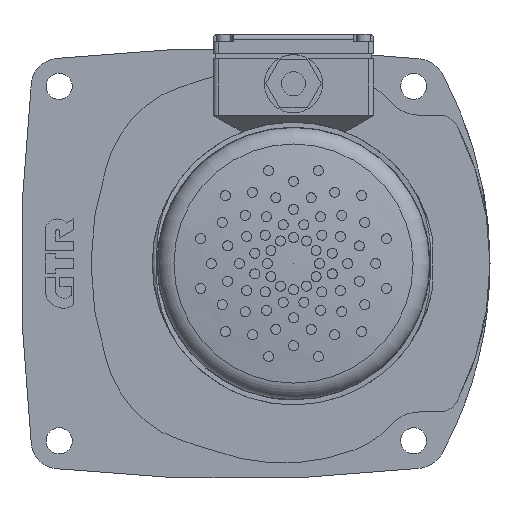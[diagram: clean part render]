
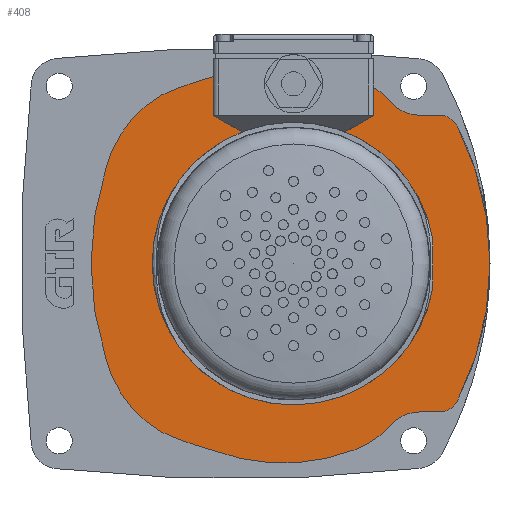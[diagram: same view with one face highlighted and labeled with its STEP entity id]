
A CAD part, left-side view. The second image highlights one B-rep face of the part: STEP entity #408.
In plain terms, the highlighted planar face has unit normal (-1, 0, 0).
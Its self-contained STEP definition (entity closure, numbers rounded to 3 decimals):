
#408 = ADVANCED_FACE( '', ( #1184 ), #1185, .F. );
#1184 = FACE_OUTER_BOUND( '', #2733, .T. );
#1185 = PLANE( '', #2734 );
#2733 = EDGE_LOOP( '', ( #4829, #4830, #4831, #4832, #4833, #4834, #4835, #4836, #4837, #4838, #4839, #4840, #4841, #4842, #4843, #4844 ) );
#2734 = AXIS2_PLACEMENT_3D( '', #4845, #4846, #4847 );
#4829 = ORIENTED_EDGE( '', *, *, #9308, .F. );
#4830 = ORIENTED_EDGE( '', *, *, #9309, .F. );
#4831 = ORIENTED_EDGE( '', *, *, #9310, .F. );
#4832 = ORIENTED_EDGE( '', *, *, #9311, .F. );
#4833 = ORIENTED_EDGE( '', *, *, #9312, .F. );
#4834 = ORIENTED_EDGE( '', *, *, #9313, .F. );
#4835 = ORIENTED_EDGE( '', *, *, #9314, .F. );
#4836 = ORIENTED_EDGE( '', *, *, #9315, .T. );
#4837 = ORIENTED_EDGE( '', *, *, #9316, .F. );
#4838 = ORIENTED_EDGE( '', *, *, #9317, .F. );
#4839 = ORIENTED_EDGE( '', *, *, #9318, .F. );
#4840 = ORIENTED_EDGE( '', *, *, #9319, .F. );
#4841 = ORIENTED_EDGE( '', *, *, #9320, .F. );
#4842 = ORIENTED_EDGE( '', *, *, #9321, .T. );
#4843 = ORIENTED_EDGE( '', *, *, #9322, .F. );
#4844 = ORIENTED_EDGE( '', *, *, #9323, .F. );
#4845 = CARTESIAN_POINT( '', ( -110., -35.5, -80. ) );
#4846 = DIRECTION( '', ( 1., 0., 0. ) );
#4847 = DIRECTION( '', ( 0., 0., -1. ) );
#9308 = EDGE_CURVE( '', #10982, #10983, #10984, .T. );
#9309 = EDGE_CURVE( '', #10985, #10982, #10986, .T. );
#9310 = EDGE_CURVE( '', #10987, #10985, #10988, .T. );
#9311 = EDGE_CURVE( '', #10989, #10987, #10990, .T. );
#9312 = EDGE_CURVE( '', #10991, #10989, #10992, .T. );
#9313 = EDGE_CURVE( '', #10993, #10991, #10994, .T. );
#9314 = EDGE_CURVE( '', #10995, #10993, #10996, .T. );
#9315 = EDGE_CURVE( '', #10995, #10997, #10998, .T. );
#9316 = EDGE_CURVE( '', #10999, #10997, #11000, .T. );
#9317 = EDGE_CURVE( '', #11001, #10999, #11002, .T. );
#9318 = EDGE_CURVE( '', #11003, #11001, #11004, .T. );
#9319 = EDGE_CURVE( '', #11005, #11003, #11006, .T. );
#9320 = EDGE_CURVE( '', #11007, #11005, #11008, .T. );
#9321 = EDGE_CURVE( '', #11007, #11009, #11010, .T. );
#9322 = EDGE_CURVE( '', #11011, #11009, #11012, .T. );
#9323 = EDGE_CURVE( '', #10983, #11011, #11013, .T. );
#10982 = VERTEX_POINT( '', #13687 );
#10983 = VERTEX_POINT( '', #13688 );
#10984 = CIRCLE( '', #13689, 179.5 );
#10985 = VERTEX_POINT( '', #13690 );
#10986 = CIRCLE( '', #13691, 59.5 );
#10987 = VERTEX_POINT( '', #13692 );
#10988 = CIRCLE( '', #13693, 154.5 );
#10989 = VERTEX_POINT( '', #13694 );
#10990 = CIRCLE( '', #13695, 59.5 );
#10991 = VERTEX_POINT( '', #13696 );
#10992 = CIRCLE( '', #13697, 179.5 );
#10993 = VERTEX_POINT( '', #13698 );
#10994 = CIRCLE( '', #13699, 99.5 );
#10995 = VERTEX_POINT( '', #13700 );
#10996 = CIRCLE( '', #13701, 50. );
#10997 = VERTEX_POINT( '', #13702 );
#10998 = CIRCLE( '', #13703, 18. );
#10999 = VERTEX_POINT( '', #13704 );
#11000 = LINE( '', #13705, #13706 );
#11001 = VERTEX_POINT( '', #13707 );
#11002 = CIRCLE( '', #13708, 10. );
#11003 = VERTEX_POINT( '', #13709 );
#11004 = CIRCLE( '', #13710, 152.5 );
#11005 = VERTEX_POINT( '', #13711 );
#11006 = CIRCLE( '', #13712, 10. );
#11007 = VERTEX_POINT( '', #13713 );
#11008 = LINE( '', #13714, #13715 );
#11009 = VERTEX_POINT( '', #13716 );
#11010 = CIRCLE( '', #13717, 18. );
#11011 = VERTEX_POINT( '', #13718 );
#11012 = CIRCLE( '', #13719, 50. );
#11013 = CIRCLE( '', #13720, 99.5 );
#13687 = CARTESIAN_POINT( '', ( -110., 37.187, 84.125 ) );
#13688 = CARTESIAN_POINT( '', ( -110., 11.287, 93.295 ) );
#13689 = AXIS2_PLACEMENT_3D( '', #21548, #21549, #21550 );
#13690 = CARTESIAN_POINT( '', ( -110., 65.101, 47.239 ) );
#13691 = AXIS2_PLACEMENT_3D( '', #21551, #21552, #21553 );
#13692 = CARTESIAN_POINT( '', ( -110., 65.101, -47.239 ) );
#13693 = AXIS2_PLACEMENT_3D( '', #21554, #21555, #21556 );
#13694 = CARTESIAN_POINT( '', ( -110., 37.187, -84.125 ) );
#13695 = AXIS2_PLACEMENT_3D( '', #21557, #21558, #21559 );
#13696 = CARTESIAN_POINT( '', ( -110., 11.287, -93.295 ) );
#13697 = AXIS2_PLACEMENT_3D( '', #21560, #21561, #21562 );
#13698 = CARTESIAN_POINT( '', ( -110., -58.663, -93.004 ) );
#13699 = AXIS2_PLACEMENT_3D( '', #21563, #21564, #21565 );
#13700 = CARTESIAN_POINT( '', ( -110., -77.891, -79.992 ) );
#13701 = AXIS2_PLACEMENT_3D( '', #21566, #21567, #21568 );
#13702 = CARTESIAN_POINT( '', ( -110., -91.3, -74. ) );
#13703 = AXIS2_PLACEMENT_3D( '', #21569, #21570, #21571 );
#13704 = CARTESIAN_POINT( '', ( -110., -101.32, -74. ) );
#13705 = CARTESIAN_POINT( '', ( -110., -101.32, -74. ) );
#13706 = VECTOR( '', #21572, 1000. );
#13707 = CARTESIAN_POINT( '', ( -110., -110.209, -68.58 ) );
#13708 = AXIS2_PLACEMENT_3D( '', #21573, #21574, #21575 );
#13709 = CARTESIAN_POINT( '', ( -110., -110.209, 68.58 ) );
#13710 = AXIS2_PLACEMENT_3D( '', #21576, #21577, #21578 );
#13711 = CARTESIAN_POINT( '', ( -110., -101.32, 74. ) );
#13712 = AXIS2_PLACEMENT_3D( '', #21579, #21580, #21581 );
#13713 = CARTESIAN_POINT( '', ( -110., -91.3, 74. ) );
#13714 = CARTESIAN_POINT( '', ( -110., -91.3, 74. ) );
#13715 = VECTOR( '', #21582, 1000. );
#13716 = CARTESIAN_POINT( '', ( -110., -77.891, 79.992 ) );
#13717 = AXIS2_PLACEMENT_3D( '', #21583, #21584, #21585 );
#13718 = CARTESIAN_POINT( '', ( -110., -58.663, 93.004 ) );
#13719 = AXIS2_PLACEMENT_3D( '', #21586, #21587, #21588 );
#13720 = AXIS2_PLACEMENT_3D( '', #21589, #21590, #21591 );
#21548 = CARTESIAN_POINT( '', ( -110., -35.5, -80. ) );
#21549 = DIRECTION( '', ( 1., 0., 0. ) );
#21550 = DIRECTION( '', ( 0., 0., -1. ) );
#21551 = CARTESIAN_POINT( '', ( -110., 7.43, 32.6 ) );
#21552 = DIRECTION( '', ( 1., 0., 0. ) );
#21553 = DIRECTION( '', ( 0., 0., -1. ) );
#21554 = CARTESIAN_POINT( '', ( -110., -82., 0. ) );
#21555 = DIRECTION( '', ( 1., 0., 0. ) );
#21556 = DIRECTION( '', ( 0., 0., -1. ) );
#21557 = CARTESIAN_POINT( '', ( -110., 7.43, -32.6 ) );
#21558 = DIRECTION( '', ( 1., 0., 0. ) );
#21559 = DIRECTION( '', ( 0., 0., -1. ) );
#21560 = CARTESIAN_POINT( '', ( -110., -35.5, 80. ) );
#21561 = DIRECTION( '', ( 1., 0., 0. ) );
#21562 = DIRECTION( '', ( 0., 0., -1. ) );
#21563 = CARTESIAN_POINT( '', ( -110., -23.3, 0. ) );
#21564 = DIRECTION( '', ( 1., 0., 0. ) );
#21565 = DIRECTION( '', ( 0., 0., -1. ) );
#21566 = CARTESIAN_POINT( '', ( -110., -41.02, -46.22 ) );
#21567 = DIRECTION( '', ( 1., 0., 0. ) );
#21568 = DIRECTION( '', ( 0., 0., -1. ) );
#21569 = CARTESIAN_POINT( '', ( -110., -91.3, -92. ) );
#21570 = DIRECTION( '', ( 1., 0., 0. ) );
#21571 = DIRECTION( '', ( 0., 0., -1. ) );
#21572 = DIRECTION( '', ( 0., 1., 0. ) );
#21573 = CARTESIAN_POINT( '', ( -110., -101.32, -64. ) );
#21574 = DIRECTION( '', ( 1., 0., 0. ) );
#21575 = DIRECTION( '', ( 0., 0., -1. ) );
#21576 = CARTESIAN_POINT( '', ( -110., 26., 0. ) );
#21577 = DIRECTION( '', ( 1., 0., 0. ) );
#21578 = DIRECTION( '', ( 0., 0., -1. ) );
#21579 = CARTESIAN_POINT( '', ( -110., -101.32, 64. ) );
#21580 = DIRECTION( '', ( 1., 0., 0. ) );
#21581 = DIRECTION( '', ( 0., 0., -1. ) );
#21582 = DIRECTION( '', ( 0., -1., 0. ) );
#21583 = CARTESIAN_POINT( '', ( -110., -91.3, 92. ) );
#21584 = DIRECTION( '', ( 1., 0., 0. ) );
#21585 = DIRECTION( '', ( 0., 0., -1. ) );
#21586 = CARTESIAN_POINT( '', ( -110., -41.02, 46.22 ) );
#21587 = DIRECTION( '', ( 1., 0., 0. ) );
#21588 = DIRECTION( '', ( 0., 0., -1. ) );
#21589 = CARTESIAN_POINT( '', ( -110., -23.3, 0. ) );
#21590 = DIRECTION( '', ( 1., 0., 0. ) );
#21591 = DIRECTION( '', ( 0., 0., -1. ) );
